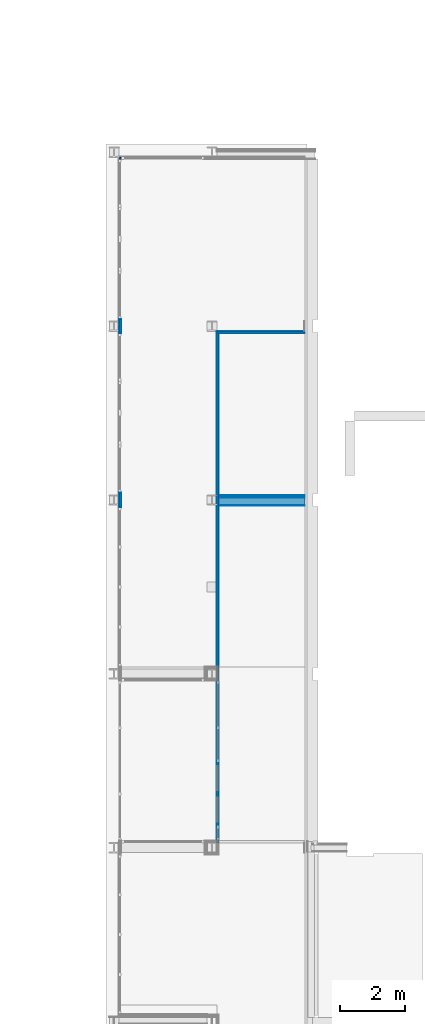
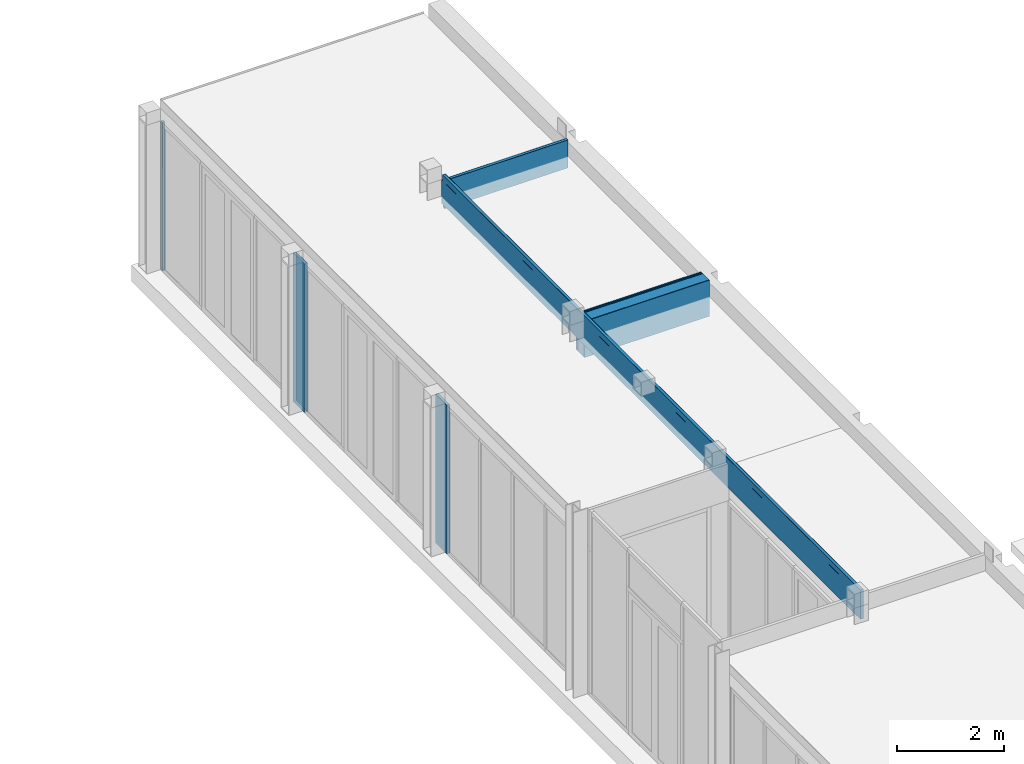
# One storey, part 72 of 99: 18 building element parts, 6 elements without a shape of their own.
"""IFC2X3 building model written with IfcOpenShell, lengths in millimetres."""

from ifc_helpers import new_model, entity, si_unit, converted_unit, derived_unit, money_unit, direction, frame, origin_with_axes, place, context, subcontext, project, spatial, faceted_brep, material, type_object, element, aggregate, save


model = new_model("IFC2X3")

# Units and contexts
model_context = context("Model", 3, precision=0.01, world=origin_with_axes(), true_north=direction((0.0, 1.0)))
body_context = subcontext(model_context, "Body", "Model", "MODEL_VIEW")
ifc_project = project(units=[si_unit("LENGTHUNIT", "METRE", prefix="MILLI"), si_unit("AREAUNIT", "SQUARE_METRE"), si_unit("VOLUMEUNIT", "CUBIC_METRE"), converted_unit("PLANEANGLEUNIT", "DEGREE", entity("IfcPlaneAngleMeasure", 0.0174532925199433), si_unit("PLANEANGLEUNIT", "RADIAN"), dimensions=[0, 0, 0, 0, 0, 0, 0]), money_unit("EUR"), converted_unit("TIMEUNIT", "Year", entity("IfcTimeMeasure", 31557600.0), si_unit("TIMEUNIT", "SECOND"), dimensions=[0, 0, 1, 0, 0, 0, 0]), si_unit("MASSUNIT", "GRAM", prefix="KILO"), si_unit("THERMODYNAMICTEMPERATUREUNIT", "DEGREE_CELSIUS"), si_unit("LUMINOUSINTENSITYUNIT", "LUMEN"), si_unit("ENERGYUNIT", "JOULE", prefix="MEGA"), derived_unit("THERMALCONDUCTANCEUNIT", [(si_unit("POWERUNIT", "WATT"), 1), (si_unit("LENGTHUNIT", "METRE"), -1), (si_unit("THERMODYNAMICTEMPERATUREUNIT", "KELVIN"), -1)]), derived_unit("SPECIFICHEATCAPACITYUNIT", [(si_unit("ENERGYUNIT", "JOULE"), 1), (si_unit("MASSUNIT", "GRAM", prefix="KILO"), -1), (si_unit("THERMODYNAMICTEMPERATUREUNIT", "KELVIN"), -1)]), derived_unit("MASSDENSITYUNIT", [(si_unit("MASSUNIT", "GRAM", prefix="KILO"), 1), (si_unit("VOLUMEUNIT", "CUBIC_METRE"), -1)])], contexts=[model_context])

# Site, building, storey
site_placement = place(None, origin_with_axes())
site = spatial("IfcSite", under=ifc_project, at=site_placement, Name="Site", CompositionType="ELEMENT")
building_placement = place(site_placement, origin_with_axes())
building = spatial("IfcBuilding", under=site, at=building_placement, Name="Naam gebouw", CompositionType="ELEMENT")
storey_placement = place(building_placement, frame((0.0, 0.0, 7650.0), z_axis=(0.0, 0.0, 1.0), x_axis=(1.0, 0.0, 0.0)))
storey = spatial("IfcBuildingStorey", under=building, at=storey_placement, Name="2e verdieping N", CompositionType="ELEMENT", Elevation=7650.0)

# Wall, building element parts
wall_type_1 = type_object("IfcWallType", Name="Basic Wall:31_WA_ALU_PANEEL", PredefinedType="STANDARD")
wall_1_placement = place(storey_placement, frame((17473.50000001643, 28105.91242631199, 199.9999999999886), z_axis=(0.0, 0.0, 1.0), x_axis=(0.0, 1.0, 0.0)))
wall_1 = element("IfcWall", 1, at=wall_1_placement, inside=storey, type_object=wall_type_1, Name="Basic Wall:31_WA_ALU_PANEEL")
ifc_material_1 = material(Name="Aluminum geanodiseerd RAL 7024")
building_element_part_1_placement = place(wall_1_placement, origin_with_axes())
building_element_part_1 = element("IfcBuildingElementPart", 2, at=building_element_part_1_placement, material=ifc_material_1, Name="Aluminum geanodiseerd RAL 7024", context=body_context, shape_type="Brep", body=[
    faceted_brep([(0.0, 31.49999997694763, 540.0000000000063), (0.0, 32.4999999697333, 540.0000000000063), (0.0, 32.4999999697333, 0.0), (0.0, 29.99999996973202, 0.0), (0.0, 29.99999996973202, 670.0000000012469), (0.0, 32.4999999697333, 670.0000000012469), (0.0, 32.4999999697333, 559.0000000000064), (0.0, 31.49999997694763, 559.0000000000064), (7695.000000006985, 31.49999997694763, 540.0000000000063), (7695.000000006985, 32.49999907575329, 540.0000000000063), (7695.000000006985, 32.49999907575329, 559.0000000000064), (15657.50000003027, 32.49999996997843, 670.0000000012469), (15657.50000003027, 32.49999996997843, 559.0000000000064), (7995.00000005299, 32.49999907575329, 559.0000000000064), (7995.00000005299, 32.49999907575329, 540.0000000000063), (15657.50000003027, 32.49999996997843, 540.0000000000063), (15687.5, 32.49999907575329, 540.0000000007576), (15687.5, 32.49999907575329, 0.0), (15687.5, 29.99999996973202, 0.0), (15687.5, 29.99999996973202, 540.0000000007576), (15657.50000003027, 29.99999996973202, 540.0000000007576), (15657.50000003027, 29.99999996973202, 670.0000000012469), (7695.000000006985, 31.49999997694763, 559.0000000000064), (15657.50000003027, 31.4999999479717, 559.0000000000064), (15657.50000003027, 31.4999999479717, 540.0000000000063), (7995.000000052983, 31.49999997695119, 559.0000000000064), (7995.000000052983, 31.49999997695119, 540.0000000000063)], [[[0, 1, 2, 3, 4, 5, 6, 7]], [[1, 0, 8, 9]], [[10, 6, 5, 11, 12, 13, 14, 15, 16, 17, 2, 1, 9]], [[2, 17, 18, 3]], [[3, 18, 19, 20, 21, 4]], [[5, 4, 21, 11]], [[7, 6, 10, 22]], [[0, 7, 22, 8]], [[10, 9, 8, 22]], [[23, 12, 11, 21, 20, 24]], [[12, 23, 25, 13]], [[14, 13, 25, 26]], [[15, 14, 26, 24, 20, 19, 16]], [[17, 16, 19, 18]], [[23, 24, 26, 25]]]),
])
building_element_part_2_placement = place(wall_1_placement, origin_with_axes())
building_element_part_2 = element("IfcBuildingElementPart", 3, at=building_element_part_2_placement, material=ifc_material_1, Name="Aluminum geanodiseerd RAL 7024", context=body_context, shape_type="Brep", body=[
    faceted_brep([(15625.0, -32.50000003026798, 0.0), (15625.0, -32.50000003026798, 540.0000000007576), (15657.50000003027, -32.50000003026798, 540.0000000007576), (15657.50000003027, -32.50000003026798, 670.0000000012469), (0.0, -32.50000003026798, 670.0000000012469), (0.0, -32.50000003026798, 0.0), (15625.0, -30.0000000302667, 0.0), (15625.0, -30.0000000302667, 540.0000000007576), (15657.50000003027, -30.0000000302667, 540.0000000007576), (15657.50000003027, -30.0000000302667, 670.0000000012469), (0.0, -30.0000000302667, 670.0000000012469), (0.0, -30.0000000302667, 0.0)], [[[0, 1, 2, 3, 4, 5]], [[1, 0, 6, 7]], [[2, 1, 7, 8]], [[2, 8, 9, 3]], [[4, 3, 9, 10]], [[4, 10, 11, 5]], [[6, 0, 5, 11]], [[7, 6, 11, 10, 9, 8]]]),
])
ifc_material_2 = material(Name="isolatie_080_1-100")
building_element_part_3_placement = place(wall_1_placement, origin_with_axes())
building_element_part_3 = element("IfcBuildingElementPart", 4, at=building_element_part_3_placement, material=ifc_material_2, Name="isolatie_080_1-100", context=body_context, shape_type="Brep", body=[
    faceted_brep([(15627.5, -30.0000000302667, 0.0), (15627.5, -30.0000000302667, 540.0000000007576), (15657.50000003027, -30.0000000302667, 540.0000000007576), (15657.50000003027, -30.0000000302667, 670.0000000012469), (0.0, -30.0000000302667, 670.0000000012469), (0.0, -30.0000000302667, 0.0), (15627.5, 29.99999996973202, 0.0), (15627.5, 29.99999996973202, 540.0000000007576), (15657.50000003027, 29.99999996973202, 540.0000000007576), (15657.50000003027, 29.99999996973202, 670.0000000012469), (0.0, 29.99999996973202, 670.0000000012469), (0.0, 29.99999996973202, 0.0)], [[[0, 1, 2, 3, 4, 5]], [[1, 0, 6, 7]], [[8, 2, 1, 7]], [[2, 8, 9, 3]], [[4, 3, 9, 10]], [[4, 10, 11, 5]], [[6, 0, 5, 11]], [[7, 6, 11, 10, 9, 8]]]),
])
aggregate(wall_1, [building_element_part_1, building_element_part_2, building_element_part_3])

wall_type_2 = type_object("IfcWallType", Name="Basic Wall:41_WA_houten delen vert HSB", PredefinedType="STANDARD")
wall_2_placement = place(storey_placement, frame((17442.00000003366, 38604.91242626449, -87.99999999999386), z_axis=(0.0, 0.0, 1.0), x_axis=(1.0, 0.0, 0.0)))
wall_2 = element("IfcWall", 5, at=wall_2_placement, inside=storey, type_object=wall_type_2, Name="Basic Wall:41_WA_houten delen vert HSB")
ifc_material_3 = material(Name="Houten delen vert")
building_element_part_4_placement = place(wall_2_placement, origin_with_axes())
building_element_part_4 = element("IfcBuildingElementPart", 6, at=building_element_part_4_placement, material=ifc_material_3, Name="Houten delen vert", context=body_context, shape_type="Brep", body=[
    faceted_brep([(64.00000001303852, 160.9999999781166, 287.9999999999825), (64.00000001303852, 160.9999999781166, 828.0000000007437), (2699.000000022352, 160.9999999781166, 828.0000000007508), (2699.000000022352, 160.9999999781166, 0.0), (0.0, 160.9999999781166, 0.0), (0.0, 160.9999999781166, 287.9999999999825), (64.00000001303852, 135.999999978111, 828.0000000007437), (64.00000001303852, 135.999999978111, 287.9999999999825), (2699.000000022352, 135.999999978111, 828.0000000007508), (2699.000000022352, 135.999999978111, 0.0), (0.0, 135.999999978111, 0.0), (0.0, 135.999999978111, 287.9999999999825)], [[[0, 1, 2, 3, 4, 5]], [[6, 1, 0, 7]], [[1, 6, 8, 2]], [[9, 3, 2, 8]], [[4, 3, 9, 10]], [[11, 5, 4, 10]], [[7, 0, 5, 11]], [[7, 11, 10, 9, 8, 6]]]),
])
ifc_material_4 = material(Name="luchtspouw")
building_element_part_5_placement = place(wall_2_placement, origin_with_axes())
building_element_part_5 = element("IfcBuildingElementPart", 7, at=building_element_part_5_placement, material=ifc_material_4, Name="luchtspouw", context=body_context, shape_type="Brep", body=[
    faceted_brep([(64.00000001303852, 113.9999999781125, 287.9999999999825), (64.00000001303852, 113.9999999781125, 828.0000000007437), (2699.000000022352, 113.9999999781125, 828.0000000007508), (2699.000000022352, 113.9999999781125, 0.0), (0.0, 113.9999999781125, 0.0), (0.0, 113.9999999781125, 287.9999999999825), (64.00000001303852, 85.9999999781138, 828.0000000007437), (64.00000001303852, 85.9999999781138, 287.9999999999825), (2699.000000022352, 85.9999999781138, 828.0000000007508), (2699.000000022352, 85.9999999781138, 0.0), (0.0, 85.9999999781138, 0.0), (0.0, 85.9999999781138, 287.9999999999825)], [[[0, 1, 2, 3, 4, 5]], [[6, 1, 0, 7]], [[1, 6, 8, 2]], [[9, 3, 2, 8]], [[4, 3, 9, 10]], [[11, 5, 4, 10]], [[7, 0, 5, 11]], [[7, 11, 10, 9, 8, 6]]]),
])
ifc_material_5 = material(Name="isolatie")
building_element_part_6_placement = place(wall_2_placement, origin_with_axes())
building_element_part_6 = element("IfcBuildingElementPart", 8, at=building_element_part_6_placement, material=ifc_material_5, Name="isolatie", context=body_context, shape_type="Brep", body=[
    faceted_brep([(64.00000001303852, 85.9999999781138, 287.9999999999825), (64.00000001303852, 85.9999999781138, 828.0000000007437), (2699.000000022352, 85.9999999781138, 828.0000000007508), (2699.000000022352, 85.9999999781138, 0.0), (0.0, 85.9999999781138, 0.0), (0.0, 85.9999999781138, 287.9999999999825), (64.00000001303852, -149.0000000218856, 828.0000000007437), (64.00000001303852, -149.0000000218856, 287.9999999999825), (2699.000000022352, -149.0000000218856, 828.0000000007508), (2699.000000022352, -149.0000000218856, 0.0), (0.0, -149.0000000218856, 0.0), (0.0, -149.0000000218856, 287.9999999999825)], [[[0, 1, 2, 3, 4, 5]], [[6, 1, 0, 7]], [[1, 6, 8, 2]], [[9, 3, 2, 8]], [[4, 3, 9, 10]], [[11, 5, 4, 10]], [[7, 0, 5, 11]], [[7, 11, 10, 9, 8, 6]]]),
])
building_element_part_7_placement = place(wall_2_placement, origin_with_axes())
building_element_part_7 = element("IfcBuildingElementPart", 9, at=building_element_part_7_placement, material=ifc_material_4, Name="luchtspouw", context=body_context, shape_type="Brep", body=[
    faceted_brep([(64.00000001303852, 135.999999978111, 287.9999999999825), (64.00000001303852, 135.999999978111, 828.0000000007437), (2699.000000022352, 135.999999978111, 828.0000000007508), (2699.000000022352, 135.999999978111, 0.0), (0.0, 135.999999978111, 0.0), (0.0, 135.999999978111, 287.9999999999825), (64.00000001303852, 113.9999999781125, 828.0000000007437), (64.00000001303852, 113.9999999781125, 287.9999999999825), (2699.000000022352, 113.9999999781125, 828.0000000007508), (2699.000000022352, 113.9999999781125, 0.0), (0.0, 113.9999999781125, 0.0), (0.0, 113.9999999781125, 287.9999999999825)], [[[0, 1, 2, 3, 4, 5]], [[6, 1, 0, 7]], [[1, 6, 8, 2]], [[9, 3, 2, 8]], [[4, 3, 9, 10]], [[11, 5, 4, 10]], [[7, 0, 5, 11]], [[7, 11, 10, 9, 8, 6]]]),
])
ifc_material_6 = material(Name="Multiplex")
building_element_part_8_placement = place(wall_2_placement, origin_with_axes())
building_element_part_8 = element("IfcBuildingElementPart", 10, at=building_element_part_8_placement, material=ifc_material_6, Name="Multiplex", context=body_context, shape_type="Brep", body=[
    faceted_brep([(64.00000001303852, -149.0000000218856, 287.9999999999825), (64.00000001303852, -149.0000000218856, 828.0000000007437), (2699.000000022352, -149.0000000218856, 828.0000000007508), (2699.000000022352, -149.0000000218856, 0.0), (0.0, -149.0000000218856, 0.0), (0.0, -149.0000000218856, 287.9999999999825), (64.00000001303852, -161.0000000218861, 828.0000000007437), (64.00000001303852, -161.0000000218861, 287.9999999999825), (2699.000000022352, -161.0000000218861, 828.0000000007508), (2699.000000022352, -161.0000000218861, 0.0), (0.0, -161.0000000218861, 0.0), (0.0, -161.0000000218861, 287.9999999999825)], [[[0, 1, 2, 3, 4, 5]], [[6, 1, 0, 7]], [[1, 6, 8, 2]], [[9, 3, 2, 8]], [[4, 3, 9, 10]], [[11, 5, 4, 10]], [[7, 0, 5, 11]], [[7, 11, 10, 9, 8, 6]]]),
])
aggregate(wall_2, [building_element_part_4, building_element_part_5, building_element_part_6, building_element_part_7, building_element_part_8])

# Wall, building element part
wall_3_placement = place(storey_placement, frame((14474.50000003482, 49060.91242632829, -3500.0), z_axis=(0.0, 0.0, 1.0), x_axis=(0.0, 1.0, 0.0)))
wall_3 = element("IfcWall", 11, at=wall_3_placement, inside=storey, type_object=wall_type_1, Name="Basic Wall:31_WA_ALU_PANEEL")
building_element_part_9_placement = place(wall_3_placement, origin_with_axes())
building_element_part_9 = element("IfcBuildingElementPart", 12, at=building_element_part_9_placement, material=ifc_material_2, Name="isolatie_080_1-100", context=body_context, shape_type="Brep", body=[
    faceted_brep([(65.0000000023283, 29.99999996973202, 0.0), (65.0000000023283, -30.00000003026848, 0.0), (0.0, -30.00000003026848, 0.0), (0.0, 29.99999996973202, 0.0), (65.0000000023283, 29.99999996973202, 3399.999999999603), (65.0000000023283, -30.00000003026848, 3399.999999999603), (0.0, -30.00000003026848, 3399.999999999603), (0.0, 29.99999996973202, 3399.999999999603)], [[[0, 1, 2, 3]], [[0, 4, 5, 1]], [[1, 5, 6, 2]], [[3, 2, 6, 7]], [[4, 0, 3, 7]], [[5, 4, 7, 6]]]),
])
aggregate(wall_3, [building_element_part_9])

# Wall, building element parts
wall_4_placement = place(storey_placement, frame((14474.50000006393, 38400.91242629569, -3500.0), z_axis=(0.0, 0.0, 1.0), x_axis=(0.0, 1.0, 0.0)))
wall_4 = element("IfcWall", 13, at=wall_4_placement, inside=storey, type_object=wall_type_1, Name="Basic Wall:31_WA_ALU_PANEEL")
building_element_part_10_placement = place(wall_4_placement, origin_with_axes())
building_element_part_10 = element("IfcBuildingElementPart", 14, at=building_element_part_10_placement, material=ifc_material_1, Name="Aluminum geanodiseerd RAL 7024", context=body_context, shape_type="Brep", body=[
    faceted_brep([(429.9999999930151, 32.49999999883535, 0.0), (429.9999999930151, 29.99999999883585, 0.0), (0.0, 29.99999999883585, 0.0), (0.0, 32.49999999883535, 0.0), (429.9999999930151, 32.49999999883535, 3399.999999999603), (429.9999999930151, 29.99999999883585, 3399.999999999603), (0.0, 29.99999999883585, 3399.999999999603), (0.0, 32.49999999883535, 3399.999999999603)], [[[0, 1, 2, 3]], [[0, 4, 5, 1]], [[1, 5, 6, 2]], [[3, 2, 6, 7]], [[4, 0, 3, 7]], [[5, 4, 7, 6]]]),
])
building_element_part_11_placement = place(wall_4_placement, origin_with_axes())
building_element_part_11 = element("IfcBuildingElementPart", 15, at=building_element_part_11_placement, material=ifc_material_1, Name="Aluminum geanodiseerd RAL 7024", context=body_context, shape_type="Brep", body=[
    faceted_brep([(429.9999999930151, -30.00000000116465, 0.0), (429.9999999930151, -32.50000000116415, 0.0), (0.0, -32.50000000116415, 0.0), (0.0, -30.00000000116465, 0.0), (429.9999999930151, -30.00000000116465, 3399.999999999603), (429.9999999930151, -32.50000000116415, 3399.999999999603), (0.0, -32.50000000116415, 3399.999999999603), (0.0, -30.00000000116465, 3399.999999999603)], [[[0, 1, 2, 3]], [[0, 4, 5, 1]], [[1, 5, 6, 2]], [[3, 2, 6, 7]], [[4, 0, 3, 7]], [[5, 4, 7, 6]]]),
])
building_element_part_12_placement = place(wall_4_placement, origin_with_axes())
building_element_part_12 = element("IfcBuildingElementPart", 16, at=building_element_part_12_placement, material=ifc_material_2, Name="isolatie_080_1-100", context=body_context, shape_type="Brep", body=[
    faceted_brep([(429.9999999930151, 29.99999999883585, 0.0), (429.9999999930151, -30.00000000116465, 0.0), (0.0, -30.00000000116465, 0.0), (0.0, 29.99999999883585, 0.0), (429.9999999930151, 29.99999999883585, 3399.999999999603), (429.9999999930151, -30.00000000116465, 3399.999999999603), (0.0, -30.00000000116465, 3399.999999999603), (0.0, 29.99999999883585, 3399.999999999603)], [[[0, 1, 2, 3]], [[0, 4, 5, 1]], [[1, 5, 6, 2]], [[3, 2, 6, 7]], [[4, 0, 3, 7]], [[5, 4, 7, 6]]]),
])
aggregate(wall_4, [building_element_part_10, building_element_part_11, building_element_part_12])

wall_5_placement = place(storey_placement, frame((14474.50000006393, 43730.91242625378, -3500.0), z_axis=(0.0, 0.0, 1.0), x_axis=(0.0, 1.0, 0.0)))
wall_5 = element("IfcWall", 17, at=wall_5_placement, inside=storey, type_object=wall_type_1, Name="Basic Wall:31_WA_ALU_PANEEL")
building_element_part_13_placement = place(wall_5_placement, origin_with_axes())
building_element_part_13 = element("IfcBuildingElementPart", 18, at=building_element_part_13_placement, material=ifc_material_2, Name="isolatie_080_1-100", context=body_context, shape_type="Brep", body=[
    faceted_brep([(430.0000000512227, 29.99999996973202, 0.0), (430.0000000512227, -30.00000003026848, 0.0), (0.0, -30.00000003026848, 0.0), (0.0, 29.99999996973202, 0.0), (430.0000000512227, 29.99999996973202, 3399.999999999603), (430.0000000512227, -30.00000003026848, 3399.999999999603), (0.0, -30.00000003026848, 3399.999999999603), (0.0, 29.99999996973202, 3399.999999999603)], [[[0, 1, 2, 3]], [[0, 4, 5, 1]], [[1, 5, 6, 2]], [[3, 2, 6, 7]], [[4, 0, 3, 7]], [[5, 4, 7, 6]]]),
])
building_element_part_14_placement = place(wall_5_placement, origin_with_axes())
building_element_part_14 = element("IfcBuildingElementPart", 19, at=building_element_part_14_placement, material=ifc_material_1, Name="Aluminum geanodiseerd RAL 7024", context=body_context, shape_type="Brep", body=[
    faceted_brep([(430.0000000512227, 32.49999996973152, 0.0), (430.0000000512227, 29.99999996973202, 0.0), (0.0, 29.99999996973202, 0.0), (0.0, 32.49999996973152, 0.0), (430.0000000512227, 32.49999996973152, 3399.999999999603), (430.0000000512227, 29.99999996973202, 3399.999999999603), (0.0, 29.99999996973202, 3399.999999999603), (0.0, 32.49999996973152, 3399.999999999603)], [[[0, 1, 2, 3]], [[0, 4, 5, 1]], [[1, 5, 6, 2]], [[3, 2, 6, 7]], [[4, 0, 3, 7]], [[5, 4, 7, 6]]]),
])
building_element_part_15_placement = place(wall_5_placement, origin_with_axes())
building_element_part_15 = element("IfcBuildingElementPart", 20, at=building_element_part_15_placement, material=ifc_material_1, Name="Aluminum geanodiseerd RAL 7024", context=body_context, shape_type="Brep", body=[
    faceted_brep([(430.0000000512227, -30.00000003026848, 0.0), (430.0000000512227, -32.50000003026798, 0.0), (0.0, -32.50000003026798, 0.0), (0.0, -30.00000003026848, 0.0), (430.0000000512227, -30.00000003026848, 3399.999999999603), (430.0000000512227, -32.50000003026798, 3399.999999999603), (0.0, -32.50000003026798, 3399.999999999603), (0.0, -30.00000003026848, 3399.999999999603)], [[[0, 1, 2, 3]], [[0, 4, 5, 1]], [[1, 5, 6, 2]], [[3, 2, 6, 7]], [[4, 0, 3, 7]], [[5, 4, 7, 6]]]),
])
aggregate(wall_5, [building_element_part_13, building_element_part_14, building_element_part_15])

wall_6_placement = place(storey_placement, frame((17473.50000001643, 43763.41242634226, 99.99999999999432), z_axis=(0.0, 0.0, 1.0), x_axis=(1.0, 0.0, 0.0)))
wall_6 = element("IfcWall", 21, at=wall_6_placement, inside=storey, type_object=wall_type_1, Name="Basic Wall:31_WA_ALU_PANEEL")
building_element_part_16_placement = place(wall_6_placement, origin_with_axes())
building_element_part_16 = element("IfcBuildingElementPart", 22, at=building_element_part_16_placement, material=ifc_material_1, Name="Aluminum geanodiseerd RAL 7024", context=body_context, shape_type="Brep", body=[
    faceted_brep([(-32.49999907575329, 32.49999996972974, 99.99999999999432), (-32.49999907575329, 32.49999996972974, 640.0000000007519), (2667.500000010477, 32.49999996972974, 640.0000000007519), (2667.500000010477, 32.49999996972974, 0.0), (0.0, 32.49999996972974, 0.0), (0.0, 32.49999996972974, 99.99999999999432), (-32.49999907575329, 29.99999996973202, 640.0000000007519), (-32.49999907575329, 29.99999996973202, 99.99999999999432), (2667.500000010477, 29.99999996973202, 640.0000000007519), (2667.500000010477, 29.99999996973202, 0.0), (0.0, 29.99999996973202, 0.0), (0.0, 29.99999996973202, 99.99999999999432)], [[[0, 1, 2, 3, 4, 5]], [[6, 1, 0, 7]], [[1, 6, 8, 2]], [[9, 3, 2, 8]], [[10, 4, 3, 9]], [[5, 4, 10, 11]], [[7, 0, 5, 11]], [[6, 7, 11, 10, 9, 8]]]),
])
building_element_part_17_placement = place(wall_6_placement, origin_with_axes())
building_element_part_17 = element("IfcBuildingElementPart", 23, at=building_element_part_17_placement, material=ifc_material_1, Name="Aluminum geanodiseerd RAL 7024", context=body_context, shape_type="Brep", body=[
    faceted_brep([(0.0, -30.00000003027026, 99.99999999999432), (30.0000000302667, -30.00000003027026, 99.99999999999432), (30.0000000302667, -30.00000003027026, 640.0000000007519), (2667.500000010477, -30.00000003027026, 640.0000000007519), (2667.500000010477, -30.00000003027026, 0.0), (0.0, -30.00000003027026, 0.0), (0.0, -32.50000003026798, 99.99999999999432), (30.0000000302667, -32.50000003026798, 99.99999999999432), (30.0000000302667, -32.50000003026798, 640.0000000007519), (2667.500000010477, -32.50000003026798, 640.0000000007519), (2667.500000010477, -32.50000003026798, 0.0), (0.0, -32.50000003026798, 0.0)], [[[0, 1, 2, 3, 4, 5]], [[1, 0, 6, 7]], [[8, 2, 1, 7]], [[2, 8, 9, 3]], [[9, 10, 4, 3]], [[10, 11, 5, 4]], [[6, 0, 5, 11]], [[7, 6, 11, 10, 9, 8]]]),
])
building_element_part_18_placement = place(wall_6_placement, origin_with_axes())
building_element_part_18 = element("IfcBuildingElementPart", 24, at=building_element_part_18_placement, material=ifc_material_2, Name="isolatie_080_1-100", context=body_context, shape_type="Brep", body=[
    faceted_brep([(-29.99999996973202, 29.99999996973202, 99.99999999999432), (-29.99999996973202, 29.99999996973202, 640.0000000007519), (2667.500000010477, 29.99999996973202, 640.0000000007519), (2667.500000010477, 29.99999996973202, 0.0), (0.0, 29.99999996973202, 0.0), (0.0, 29.99999996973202, 99.99999999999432), (-29.99999996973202, -30.00000003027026, 640.0000000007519), (-29.99999996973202, -30.00000003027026, 99.99999999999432), (2667.500000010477, -30.00000003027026, 640.0000000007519), (2667.500000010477, -30.00000003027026, 0.0), (0.0, -30.00000003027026, 0.0), (0.0, -30.00000003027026, 99.99999999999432)], [[[0, 1, 2, 3, 4, 5]], [[6, 1, 0, 7]], [[1, 6, 8, 2]], [[8, 9, 3, 2]], [[9, 10, 4, 3]], [[11, 5, 4, 10]], [[7, 0, 5, 11]], [[6, 7, 11, 10, 9, 8]]]),
])
aggregate(wall_6, [building_element_part_16, building_element_part_17, building_element_part_18])

save(model, "model.ifc")
